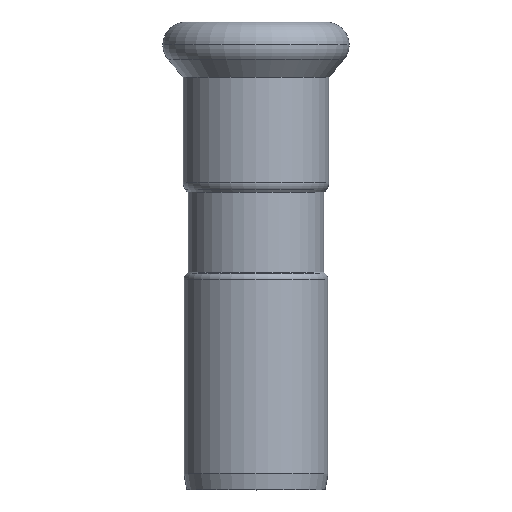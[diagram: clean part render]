
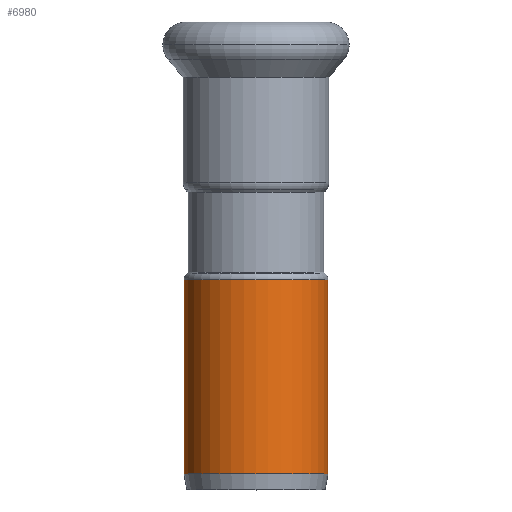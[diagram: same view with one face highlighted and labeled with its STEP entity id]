
A CAD part, top view. The second image highlights one B-rep face of the part: STEP entity #6980.
In plain terms, the highlighted cylindrical face has radius 9 mm (diameter 18 mm), a partial arc.
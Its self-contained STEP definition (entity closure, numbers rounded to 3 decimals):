
#4230=CARTESIAN_POINT('',(-105.193,29.195,0.));
#4240=VERTEX_POINT('',#4230);
#4290=CARTESIAN_POINT('',(-96.193,29.195,0.));
#4300=DIRECTION('',(0.,-1.,0.));
#4310=DIRECTION('',(-1.,0.,0.));
#4320=AXIS2_PLACEMENT_3D('',#4290,#4300,#4310);
#4330=CIRCLE('',#4320,9.);
#4340=CARTESIAN_POINT('',(-87.193,29.195,0.));
#4350=VERTEX_POINT('',#4340);
#5980=CARTESIAN_POINT('',(-87.193,4.909,0.));
#5990=VERTEX_POINT('',#5980);
#6020=CARTESIAN_POINT('',(-96.193,4.909,0.));
#6030=DIRECTION('',(0.,-1.,0.));
#6040=DIRECTION('',(-1.,0.,0.));
#6050=AXIS2_PLACEMENT_3D('',#6020,#6030,#6040);
#6060=CIRCLE('',#6050,9.);
#6070=CARTESIAN_POINT('',(-105.193,4.909,
0.));
#6080=VERTEX_POINT('',#6070);
#6210=CARTESIAN_POINT('',(-96.193,30.109,0.));
#6220=DIRECTION('',(0.,-1.,0.));
#6230=DIRECTION('',(1.,0.,0.));
#6240=AXIS2_PLACEMENT_3D('',#6210,#6220,#6230);
#6250=CYLINDRICAL_SURFACE('',#6240,9.);
#6260=CARTESIAN_POINT('',(-87.193,30.109,0.));
#6270=DIRECTION('',(0.,-1.,0.));
#6280=VECTOR('',#6270,1.);
#6290=LINE('',#6260,#6280);
#6300=EDGE_CURVE('',#4350,#5990,#6290,.T.);
#6330=CARTESIAN_POINT('',(-105.193,30.109,
0.));
#6340=DIRECTION('',(0.,-1.,0.));
#6350=VECTOR('',#6340,1.);
#6360=LINE('',#6330,#6350);
#6370=EDGE_CURVE('',#4240,#6080,#6360,.T.);
#6760=EDGE_CURVE('',#5990,#6080,#6060,.T.);
#6910=ORIENTED_EDGE('',*,*,#6760,.F.);
#6920=ORIENTED_EDGE('',*,*,#6370,.T.);
#6930=EDGE_CURVE('',#4350,#4240,#4330,.T.);
#6940=ORIENTED_EDGE('',*,*,#6930,.T.);
#6950=ORIENTED_EDGE('',*,*,#6300,.F.);
#6960=EDGE_LOOP('',(#6950,#6940,#6920,#6910));
#6970=FACE_OUTER_BOUND('',#6960,.T.);
#6980=ADVANCED_FACE('',(#6970),#6250,.T.);
